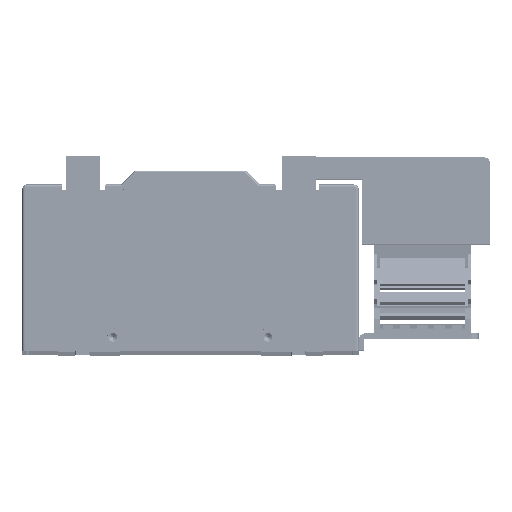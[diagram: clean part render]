
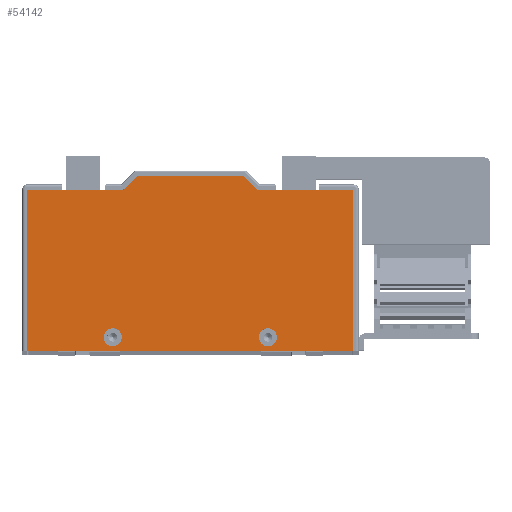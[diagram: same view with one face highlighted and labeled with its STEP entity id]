
A CAD part, top view. The second image highlights one B-rep face of the part: STEP entity #54142.
In plain terms, the highlighted planar face has unit normal (0, 0, 1) as drawn and (0, 0, -1) by its records, which use the part's own axes.
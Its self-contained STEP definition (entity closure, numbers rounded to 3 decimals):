
#32153 = DIRECTION ( 'NONE',  ( -1., 0., 0. ) ) ;
#32154 = VECTOR ( 'NONE', #32153, 1000. ) ;
#32156 = CARTESIAN_POINT ( 'NONE',  ( 14.809, -17.701, 0. ) ) ;
#32158 = LINE ( 'NONE', #32156, #32154 ) ;
#32162 = CARTESIAN_POINT ( 'NONE',  ( -111.191, -17.701, 0. ) ) ;
#32220 = DIRECTION ( 'NONE',  ( 0., 1., 0. ) ) ;
#32221 = VECTOR ( 'NONE', #32220, 1000. ) ;
#32222 = CARTESIAN_POINT ( 'NONE',  ( -175.191, -17.701, 0. ) ) ;
#32223 = LINE ( 'NONE', #32222, #32221 ) ;
#32231 = DIRECTION ( 'NONE',  ( 0., -1., 0. ) ) ;
#32233 = VECTOR ( 'NONE', #32231, 1000. ) ;
#32234 = CARTESIAN_POINT ( 'NONE',  ( 14.809, 84.299, 0. ) ) ;
#32236 = LINE ( 'NONE', #32234, #32233 ) ;
#32240 = CARTESIAN_POINT ( 'NONE',  ( 14.809, -9.701, 0. ) ) ;
#32815 = CARTESIAN_POINT ( 'NONE',  ( -120.191, 76.299, 0. ) ) ;
#33118 = CARTESIAN_POINT ( 'NONE',  ( -29.691, 76.299, 0. ) ) ;
#33194 = CARTESIAN_POINT ( 'NONE',  ( -40.191, 76.299, 0. ) ) ;
#33195 = DIRECTION ( 'NONE',  ( -1., 0., 0. ) ) ;
#33196 = DIRECTION ( 'NONE',  ( 0., 0., -1. ) ) ;
#33197 = CARTESIAN_POINT ( 'NONE',  ( -34.941, 76.299, 0. ) ) ;
#33199 = AXIS2_PLACEMENT_3D ( 'NONE', #33197, #33196, #33195 ) ;
#33200 = CIRCLE ( 'NONE', #33199, 5.25 ) ;
#33261 = CARTESIAN_POINT ( 'NONE',  ( -49.191, -17.701, 0. ) ) ;
#33421 = CARTESIAN_POINT ( 'NONE',  ( 14.809, 84.299, 0. ) ) ;
#33424 = CARTESIAN_POINT ( 'NONE',  ( -175.191, 84.299, 0. ) ) ;
#33426 = DIRECTION ( 'NONE',  ( 1., 0., 0. ) ) ;
#33428 = VECTOR ( 'NONE', #33426, 1000. ) ;
#33429 = CARTESIAN_POINT ( 'NONE',  ( -175.191, 84.299, 0. ) ) ;
#33431 = LINE ( 'NONE', #33429, #33428 ) ;
#33944 = DIRECTION ( 'NONE',  ( -1., 0., 0. ) ) ;
#33946 = DIRECTION ( 'NONE',  ( 0., 0., -1. ) ) ;
#33947 = CARTESIAN_POINT ( 'NONE',  ( -125.441, 76.299, 0. ) ) ;
#33949 = AXIS2_PLACEMENT_3D ( 'NONE', #33947, #33946, #33944 ) ;
#33950 = CIRCLE ( 'NONE', #33949, 5.25 ) ;
#34075 = CARTESIAN_POINT ( 'NONE',  ( -130.691, 76.299, 0. ) ) ;
#34150 = CARTESIAN_POINT ( 'NONE',  ( -175.191, -9.701, 0. ) ) ;
#34411 = CARTESIAN_POINT ( 'NONE',  ( -119.191, -9.701, 0. ) ) ;
#34420 = LINE ( 'NONE', #34411, #34551 ) ;
#34549 = DIRECTION ( 'NONE',  ( 1., 0., 0. ) ) ;
#34551 = VECTOR ( 'NONE', #34549, 1000. ) ;
#34624 = DIRECTION ( 'NONE',  ( 0.707, -0.707, 0. ) ) ;
#34626 = VECTOR ( 'NONE', #34624, 1000. ) ;
#34628 = CARTESIAN_POINT ( 'NONE',  ( -111.191, -17.701, 0. ) ) ;
#34629 = LINE ( 'NONE', #34628, #34626 ) ;
#34758 = CARTESIAN_POINT ( 'NONE',  ( -119.191, -9.701, 0. ) ) ;
#34961 = PLANE ( 'NONE',  #35099 ) ;
#34963 = FACE_OUTER_BOUND ( 'NONE', #54156, .T. ) ;
#34965 = FACE_BOUND ( 'NONE', #54150, .T. ) ;
#34966 = FACE_BOUND ( 'NONE', #54056, .T. ) ;
#35039 = CARTESIAN_POINT ( 'NONE',  ( -41.191, -9.701, 0. ) ) ;
#35040 = DIRECTION ( 'NONE',  ( 1., 0., 0. ) ) ;
#35041 = VECTOR ( 'NONE', #35040, 1000. ) ;
#35043 = CARTESIAN_POINT ( 'NONE',  ( 14.809, -9.701, 0. ) ) ;
#35044 = LINE ( 'NONE', #35043, #35041 ) ;
#35063 = DIRECTION ( 'NONE',  ( -1., 0., 0. ) ) ;
#35065 = DIRECTION ( 'NONE',  ( 0., 0., -1. ) ) ;
#35066 = CARTESIAN_POINT ( 'NONE',  ( -34.941, 76.299, 0. ) ) ;
#35068 = AXIS2_PLACEMENT_3D ( 'NONE', #35066, #35065, #35063 ) ;
#35069 = CIRCLE ( 'NONE', #35068, 5.25 ) ;
#35087 = DIRECTION ( 'NONE',  ( -1., 0., 0. ) ) ;
#35089 = DIRECTION ( 'NONE',  ( 0., 0., -1. ) ) ;
#35090 = CARTESIAN_POINT ( 'NONE',  ( -125.441, 76.299, 0. ) ) ;
#35092 = AXIS2_PLACEMENT_3D ( 'NONE', #35090, #35089, #35087 ) ;
#35094 = CIRCLE ( 'NONE', #35092, 5.25 ) ;
#35095 = DIRECTION ( 'NONE',  ( 1., 0., 0. ) ) ;
#35096 = DIRECTION ( 'NONE',  ( 0., 0., 1. ) ) ;
#35098 = CARTESIAN_POINT ( 'NONE',  ( -175.191, 84.299, 0. ) ) ;
#35099 = AXIS2_PLACEMENT_3D ( 'NONE', #35098, #35096, #35095 ) ;
#35162 = DIRECTION ( 'NONE',  ( 0.707, 0.707, 0. ) ) ;
#35163 = VECTOR ( 'NONE', #35162, 1000. ) ;
#35165 = CARTESIAN_POINT ( 'NONE',  ( -41.191, -9.701, 0. ) ) ;
#35167 = LINE ( 'NONE', #35165, #35163 ) ;
#53344 = VERTEX_POINT ( 'NONE', #32162 ) ;
#53346 = EDGE_CURVE ( 'NONE', #53650, #53344, #32158, .T. ) ;
#53356 = VERTEX_POINT ( 'NONE', #32240 ) ;
#53359 = EDGE_CURVE ( 'NONE', #53713, #53356, #32236, .T. ) ;
#53361 = EDGE_CURVE ( 'NONE', #53921, #53712, #32223, .T. ) ;
#53532 = VERTEX_POINT ( 'NONE', #32815 ) ;
#53620 = VERTEX_POINT ( 'NONE', #33118 ) ;
#53631 = EDGE_CURVE ( 'NONE', #53620, #53632, #33200, .T. ) ;
#53632 = VERTEX_POINT ( 'NONE', #33194 ) ;
#53650 = VERTEX_POINT ( 'NONE', #33261 ) ;
#53711 = EDGE_CURVE ( 'NONE', #53712, #53713, #33431, .T. ) ;
#53712 = VERTEX_POINT ( 'NONE', #33424 ) ;
#53713 = VERTEX_POINT ( 'NONE', #33421 ) ;
#53857 = EDGE_CURVE ( 'NONE', #53532, #53858, #33950, .T. ) ;
#53858 = VERTEX_POINT ( 'NONE', #34075 ) ;
#53921 = VERTEX_POINT ( 'NONE', #34150 ) ;
#53980 = ORIENTED_EDGE ( 'NONE', *, *, #53981, .F. ) ;
#53981 = EDGE_CURVE ( 'NONE', #53921, #54030, #34420, .T. ) ;
#54028 = ORIENTED_EDGE ( 'NONE', *, *, #54029, .F. ) ;
#54029 = EDGE_CURVE ( 'NONE', #54030, #53344, #34629, .T. ) ;
#54030 = VERTEX_POINT ( 'NONE', #34758 ) ;
#54056 = EDGE_LOOP ( 'NONE', ( #54145, #54149 ) ) ;
#54101 = ORIENTED_EDGE ( 'NONE', *, *, #53359, .T. ) ;
#54142 = ADVANCED_FACE ( 'NONE', ( #34966, #34965, #34963 ), #34961, .F. ) ;
#54145 = ORIENTED_EDGE ( 'NONE', *, *, #54146, .F. ) ;
#54146 = EDGE_CURVE ( 'NONE', #53858, #53532, #35094, .T. ) ;
#54149 = ORIENTED_EDGE ( 'NONE', *, *, #53857, .F. ) ;
#54150 = EDGE_LOOP ( 'NONE', ( #54152, #54154 ) ) ;
#54152 = ORIENTED_EDGE ( 'NONE', *, *, #54153, .F. ) ;
#54153 = EDGE_CURVE ( 'NONE', #53632, #53620, #35069, .T. ) ;
#54154 = ORIENTED_EDGE ( 'NONE', *, *, #53631, .F. ) ;
#54156 = EDGE_LOOP ( 'NONE', ( #54101, #54159, #54165, #54169, #54028, #53980, #54170, #54171 ) ) ;
#54159 = ORIENTED_EDGE ( 'NONE', *, *, #54160, .F. ) ;
#54160 = EDGE_CURVE ( 'NONE', #54162, #53356, #35044, .T. ) ;
#54162 = VERTEX_POINT ( 'NONE', #35039 ) ;
#54165 = ORIENTED_EDGE ( 'NONE', *, *, #54168, .F. ) ;
#54168 = EDGE_CURVE ( 'NONE', #53650, #54162, #35167, .T. ) ;
#54169 = ORIENTED_EDGE ( 'NONE', *, *, #53346, .T. ) ;
#54170 = ORIENTED_EDGE ( 'NONE', *, *, #53361, .T. ) ;
#54171 = ORIENTED_EDGE ( 'NONE', *, *, #53711, .T. ) ;
